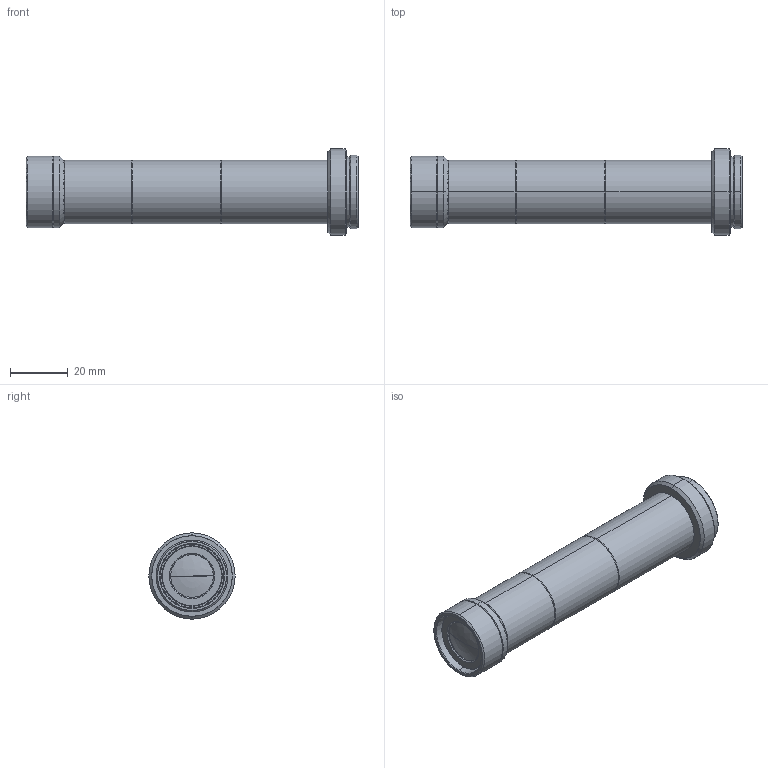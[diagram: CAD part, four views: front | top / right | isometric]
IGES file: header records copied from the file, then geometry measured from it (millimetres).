
Start section: SolidWorks IGES file using analytic representation for surfaces
Bounding box: 115.4 x 30 x 30 mm (x, y, z)
Surface area: 14925.1 mm2 (no closed solid volume)
Topology: 0 solids, 0 shells, 132 faces, 1556 edges, 1554 vertices
Faces by surface type: revolution 116, bspline 16
